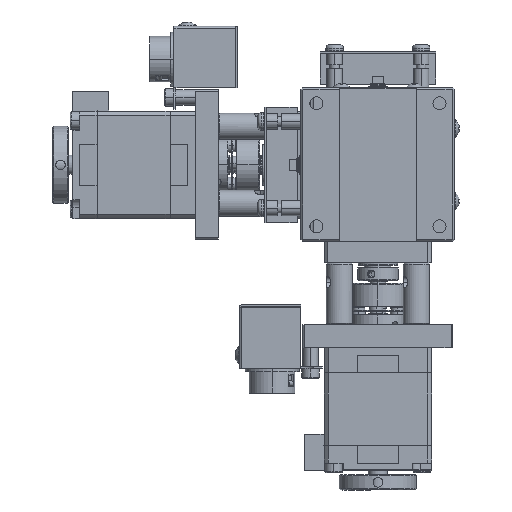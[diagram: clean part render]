
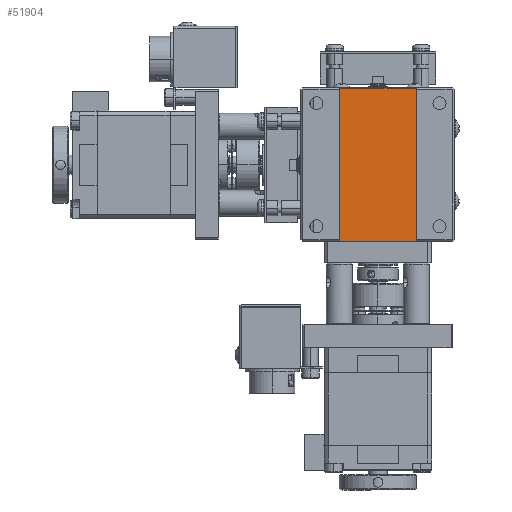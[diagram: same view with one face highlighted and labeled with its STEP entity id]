
A CAD part, front view. The second image highlights one B-rep face of the part: STEP entity #51904.
In plain terms, the highlighted planar face has unit normal (0, -1, 0).
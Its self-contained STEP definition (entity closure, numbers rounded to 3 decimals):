
#866 = VECTOR ( 'NONE', #47605, 1000. ) ;
#2222 = CARTESIAN_POINT ( 'NONE',  ( -14.516, -14.526, 77.578 ) ) ;
#6589 = DIRECTION ( 'NONE',  ( -1., 0., 0. ) ) ;
#7957 = CARTESIAN_POINT ( 'NONE',  ( -14.516, -14.526, 37.978 ) ) ;
#9541 = EDGE_CURVE ( 'NONE', #53501, #39346, #21620, .T. ) ;
#10129 = LINE ( 'NONE', #28736, #866 ) ;
#11813 = FACE_OUTER_BOUND ( 'NONE', #52587, .T. ) ;
#11927 = DIRECTION ( 'NONE',  ( 0., 0., 1. ) ) ;
#15902 = CARTESIAN_POINT ( 'NONE',  ( -34.516, -14.526, 77.578 ) ) ;
#16597 = CARTESIAN_POINT ( 'NONE',  ( -14.516, -14.526, 37.778 ) ) ;
#17178 = EDGE_CURVE ( 'NONE', #41288, #53501, #10129, .T. ) ;
#17837 = ORIENTED_EDGE ( 'NONE', *, *, #60159, .T. ) ;
#21577 = DIRECTION ( 'NONE',  ( -1., 0., 0. ) ) ;
#21620 = LINE ( 'NONE', #42622, #30363 ) ;
#22201 = VECTOR ( 'NONE', #11927, 1000. ) ;
#23755 = DIRECTION ( 'NONE',  ( 1., 0., 0. ) ) ;
#26636 = VERTEX_POINT ( 'NONE', #2222 ) ;
#28736 = CARTESIAN_POINT ( 'NONE',  ( -34.516, -14.526, 37.778 ) ) ;
#30363 = VECTOR ( 'NONE', #23755, 1000. ) ;
#30398 = CARTESIAN_POINT ( 'NONE',  ( -44.516, -14.526, 37.778 ) ) ;
#30697 = DIRECTION ( 'NONE',  ( 0., -1., 0. ) ) ;
#37308 = AXIS2_PLACEMENT_3D ( 'NONE', #30398, #30697, #6589 ) ;
#38163 = VECTOR ( 'NONE', #21577, 1000. ) ;
#39346 = VERTEX_POINT ( 'NONE', #7957 ) ;
#41288 = VERTEX_POINT ( 'NONE', #15902 ) ;
#42622 = CARTESIAN_POINT ( 'NONE',  ( -44.516, -14.526, 37.978 ) ) ;
#43837 = CARTESIAN_POINT ( 'NONE',  ( -34.516, -14.526, 37.978 ) ) ;
#45071 = LINE ( 'NONE', #59605, #38163 ) ;
#45359 = LINE ( 'NONE', #16597, #22201 ) ;
#47605 = DIRECTION ( 'NONE',  ( 0., 0., -1. ) ) ;
#48776 = ORIENTED_EDGE ( 'NONE', *, *, #9541, .T. ) ;
#51904 = ADVANCED_FACE ( 'NONE', ( #11813 ), #53948, .T. ) ;
#52587 = EDGE_LOOP ( 'NONE', ( #17837, #55876, #48776, #60998 ) ) ;
#53501 = VERTEX_POINT ( 'NONE', #43837 ) ;
#53948 = PLANE ( 'NONE',  #37308 ) ;
#55876 = ORIENTED_EDGE ( 'NONE', *, *, #17178, .T. ) ;
#59050 = EDGE_CURVE ( 'NONE', #39346, #26636, #45359, .T. ) ;
#59605 = CARTESIAN_POINT ( 'NONE',  ( -44.516, -14.526, 77.578 ) ) ;
#60159 = EDGE_CURVE ( 'NONE', #26636, #41288, #45071, .T. ) ;
#60998 = ORIENTED_EDGE ( 'NONE', *, *, #59050, .T. ) ;
